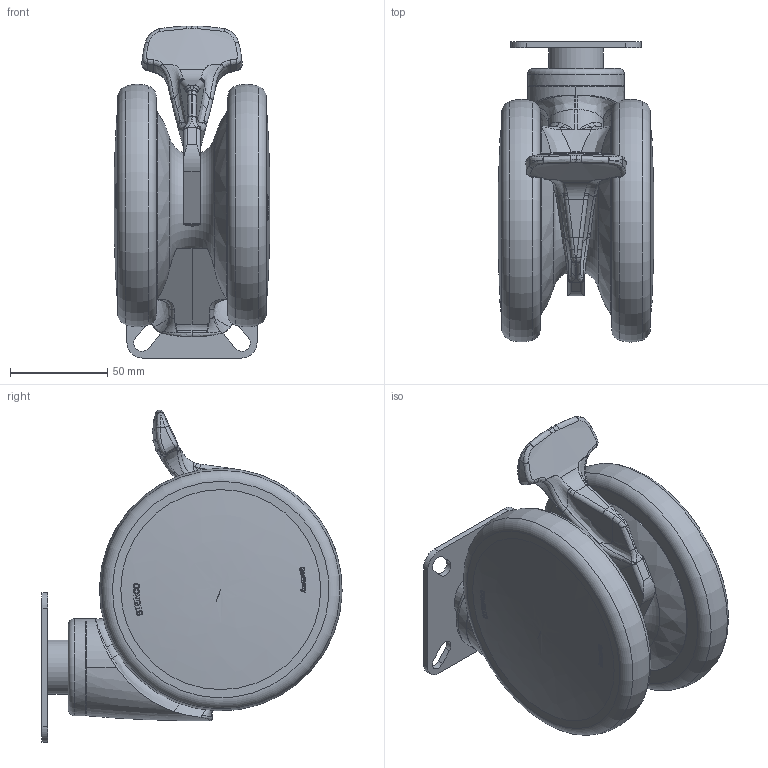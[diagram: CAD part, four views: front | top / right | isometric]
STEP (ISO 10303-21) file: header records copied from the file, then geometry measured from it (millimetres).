
FILE_DESCRIPTION(/* description */ (''),/* implementation_level */ '2;1');
FILE_NAME(/* name */ 'D:\Temp\TP-STEP_files\_inventor_\new_imports\4.TGA0.DPA0.prt.ipt.step',/* time_stamp */ '2020-11-27T10:32:58+01:00',/* author */ ('alfredS'),/* organization */ (''),/* preprocessor_version */ 'ST-DEVELOPER v18.1',/* originating_system */ 'Autodesk Inventor 2021',/* authorisation */ '');
FILE_SCHEMA (('AUTOMOTIVE_DESIGN { 1 0 10303 214 3 1 1 }'));
Length unit declared in the file: millimetre
Products named in the file (1): 4.TGA0.DPA0.prt
Bounding box: 80.24 x 154.63 x 171 mm (x, y, z)
Volume: 816048.4 mm3; surface area: 88838.6 mm2
Topology: 3 solids, 3 shells, 514 faces, 1356 edges, 888 vertices
Faces by surface type: bspline 273, plane 187, cylinder 39, torus 13, sphere 2
Full cylindrical faces by diameter (mm): 28 x1, 47.152 x1, 50 x1
Entity records: 71871 total; most frequent: CARTESIAN_POINT 60463, ORIENTED_EDGE 2700, DIRECTION 1608, EDGE_CURVE 1350, VERTEX_POINT 888, AXIS2_PLACEMENT_3D 622, B_SPLINE_CURVE_WITH_KNOTS 596, EDGE_LOOP 568
